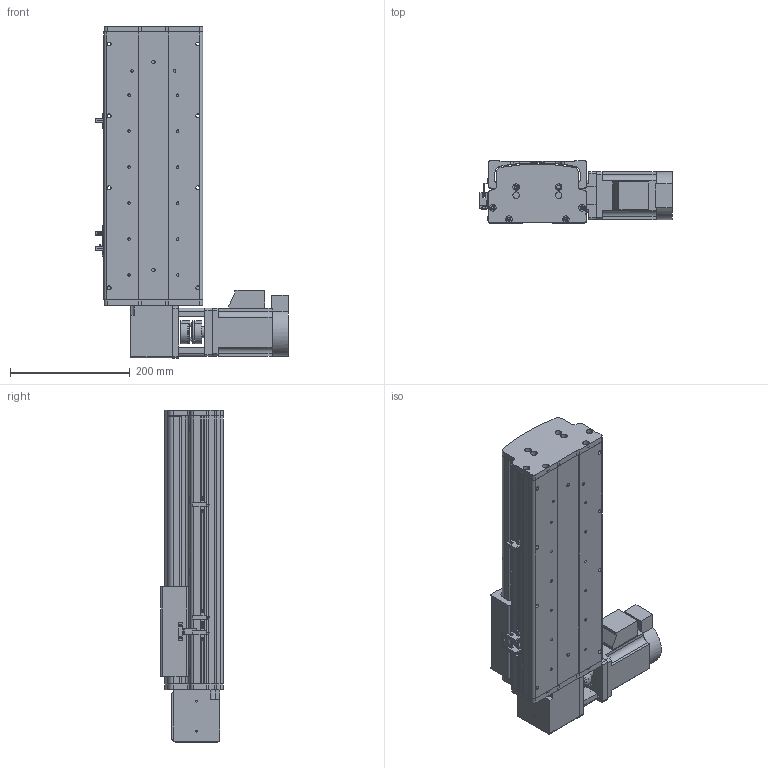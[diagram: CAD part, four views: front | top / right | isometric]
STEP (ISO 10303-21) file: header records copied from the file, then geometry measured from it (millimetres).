
FILE_DESCRIPTION (( 'STEP AP214' ), '1' );
FILE_NAME ('KSD165B-S200-MRT-CM.STEP', '2017-08-07T09:17:31', ( '微软用户' ), ( '微软中国' ), 'SwSTEP 2.0', 'SolidWorks 2014', '' );
FILE_SCHEMA (( 'AUTOMOTIVE_DESIGN' ));
Length unit declared in the file: millimetre
Products named in the file (16): KSD165模组-同步带防尘盖1-200行程-最新版; KSD165模组同步带底板-200行程-最新; 拸秶雄ん750W侜督萇儂; 165宽安装板同步带带电机座750W; 165宽马达安装板同步带右; C39ㄜ1419WP; U倰嫖萇假蚾璃; U倰嫖萇EEㄜSX672; 覜茼え68遵圉猾敕; KSD165模组-同步带-防撞垫2; KSD165模组同步带-防撞垫1; KSD165耀郪-ヶ傷啣1-肮祭湍; KSD165模组-后端板1-同步带; 130宽马达安装板1-带电机座750W（1）; KSD165模组-同步带滑动座-最新版; KSD165B-S200-MRT-CM
Assembly tree (19 placements, depth 2):
  KSD165B-S200-MRT-CM
    KSD165模组-同步带滑动座-最新版
    130宽马达安装板1-带电机座750W（1）
    KSD165模组-后端板1-同步带
    KSD165耀郪-ヶ傷啣1-肮祭湍
    KSD165模组同步带-防撞垫1
    KSD165模组-同步带-防撞垫2
    覜茼え68遵圉猾敕
    U倰嫖萇EEㄜSX672  x3
    U倰嫖萇假蚾璃  x3
    C39ㄜ1419WP
    165宽马达安装板同步带右
    165宽安装板同步带带电机座750W
    拸秶雄ん750W侜督萇儂
    KSD165模组同步带底板-200行程-最新
    KSD165模组-同步带防尘盖1-200行程-最新版
Bounding box: 321.2 x 104 x 554 mm (x, y, z)
Volume: 4277535.6 mm3; surface area: 929876.4 mm2
Topology: 20 solids, 20 shells, 1388 faces, 3840 edges, 2481 vertices
Faces by surface type: cylinder 727, plane 567, cone 94
Entity records: 43103 total; most frequent: CARTESIAN_POINT 9053, DIRECTION 6746, ORIENTED_EDGE 6332, EDGE_CURVE 3166, AXIS2_PLACEMENT_3D 2542, VERTEX_POINT 2073, VECTOR 1662, LINE 1662
